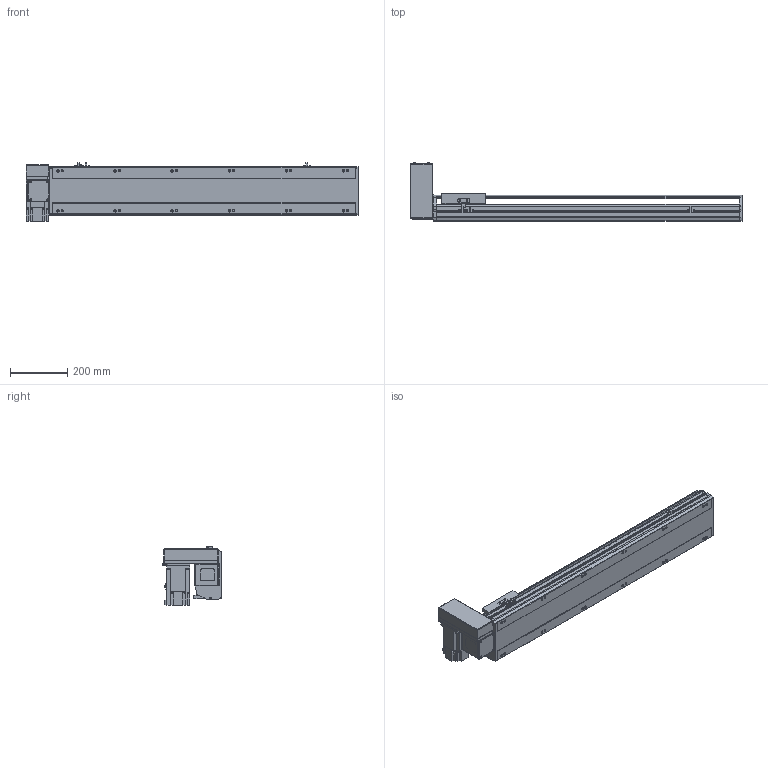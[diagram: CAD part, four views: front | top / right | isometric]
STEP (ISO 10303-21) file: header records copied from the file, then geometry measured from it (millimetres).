
FILE_DESCRIPTION(/* description */ ('STEP AP214'),/* implementation_level */ '2;1');
FILE_NAME(/* name */ 'PBS170-P40-S800-RU-T75-C1-N(0)',/* time_stamp */ '2022-06-08T07:56:33+02:00',/* author */ ('License CC BY-ND 4.0'),/* organization */ ('CADENAS'),/* preprocessor_version */ 'ST-DEVELOPER v18.102',/* originating_system */ 'PARTsolutions',/* authorisation */ ' ');
FILE_SCHEMA (('AUTOMOTIVE_DESIGN {1 0 10303 214 3 1 1}'));
Length unit declared in the file: millimetre
Products named in the file (7): PBS170-P40-S800-RU-T75-C1-N(0); PBS170_sensor; PBS170_plant; PBS170_sliser; T75-p1; PBS170T-RU_motors; PBS170-S800()_body
Assembly tree (8 placements, depth 2):
  PBS170-P40-S800-RU-T75-C1-N(0)
    PBS170_sensor  x3
    PBS170_plant
    PBS170_sliser
    T75-p1
    PBS170T-RU_motors
    PBS170-S800()_body
Bounding box: 1163 x 206 x 205.3 mm (x, y, z)
Volume: 9567605.3 mm3; surface area: 1267361.5 mm2
Topology: 8 solids, 8 shells, 1050 faces, 2795 edges, 1822 vertices
Faces by surface type: plane 675, cylinder 323, cone 42, sphere 8, torus 2
Full cylindrical faces by diameter (mm): 3.242 x4, 4 x2, 4.4 x4, 4.5 x6, 4.917 x4, 6 x9, 6.647 x20, 7 x2, 7.5 x4, 8 x8, 8.5 x12, 10 x4, 10.5 x12, 11 x2, 30 x2, 40 x1, 70 x1
Entity records: 30202 total; most frequent: CARTESIAN_POINT 5489, DIRECTION 5160, ORIENTED_EDGE 4908, EDGE_CURVE 2454, AXIS2_PLACEMENT_3D 1777, VERTEX_POINT 1682, LINE 1606, VECTOR 1606
